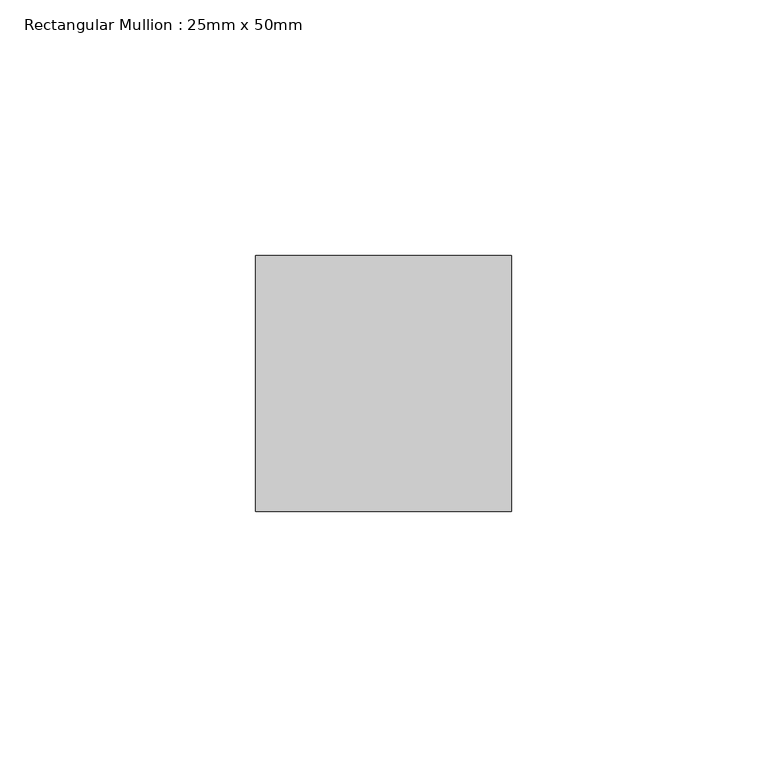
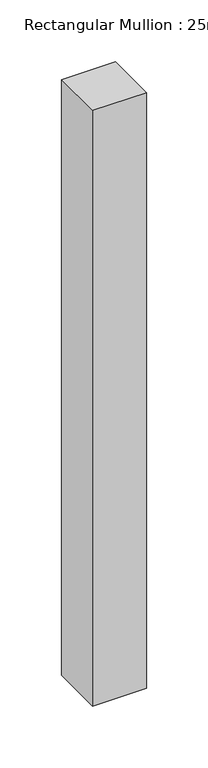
"""IFC4 building model written with IfcOpenShell, lengths in millimetres: member geometry, Rectangular Mullion : 25mm x 50mm."""

from ifc_helpers import new_model, si_unit, frame, origin, place, context, project, spatial, polyline, outline, extrude, source, transform, mapped, element, save


def rectangular_mullion_25mm_x_50mm_3b21807c(model_context):
    return source(origin(), model_context, "Body", "SweptSolid", [
        extrude(outline(polyline([(0.0, 25.0), (0.0, -25.0), (-50.0, -25.0), (-50.0, 25.0), (0.0, 25.0)])), frame((0.0, 0.0, -586.9639471), z_axis=(0.0, 0.0, 1.0), x_axis=(1.0, 0.0, 0.0)), (0.0, 0.0, 1.0), 586.9639471),
    ])


if __name__ == "__main__":
    model = new_model("IFC4")
    model_context = context("Model", 3, world=origin())
    ifc_project = project(units=[si_unit("LENGTHUNIT", "METRE", prefix="MILLI")], contexts=[model_context])
    site = spatial("IfcSite", under=ifc_project)
    building = spatial("IfcBuilding", under=site)
    placement = place(None, origin())
    rectangular_mullion_25mm_x_50mm_shape = rectangular_mullion_25mm_x_50mm_3b21807c(model_context)
    element("IfcMember", 1, ObjectType="Rectangular Mullion : 25mm x 50mm", at=placement, inside=building, context=model_context, shape_type="MappedRepresentation", body=[
        mapped(rectangular_mullion_25mm_x_50mm_shape, transform((0.0, 0.0, 0.0), x_axis=(1.0, 0.0, 0.0), y_axis=(0.0, 1.0, 0.0), z_axis=(0.0, 0.0, 1.0))),
    ])
    save(model, "model.ifc")
